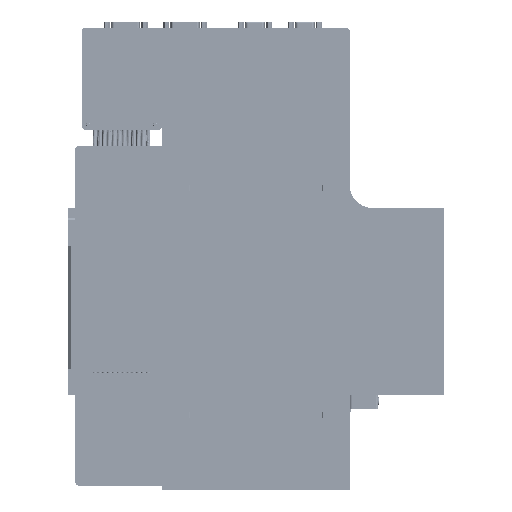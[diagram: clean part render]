
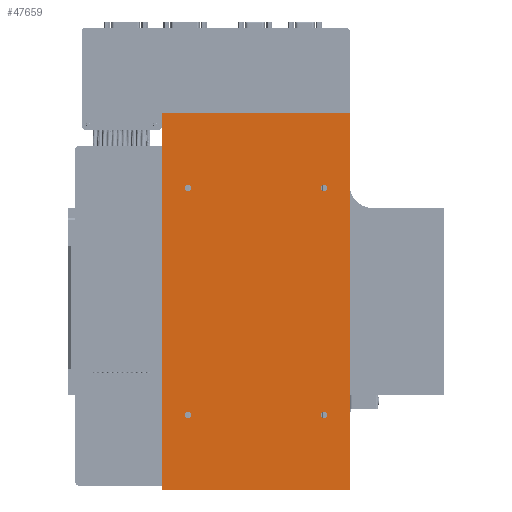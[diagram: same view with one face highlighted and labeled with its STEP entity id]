
A CAD part, front view. The second image highlights one B-rep face of the part: STEP entity #47659.
In plain terms, the highlighted planar face has unit normal (0, -1, 0).
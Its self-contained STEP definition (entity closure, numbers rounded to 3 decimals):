
#1025 = CIRCLE ( 'NONE', #63751, 2.75 ) ;
#1779 = VERTEX_POINT ( 'NONE', #173153 ) ;
#5857 = CIRCLE ( 'NONE', #192332, 2.75 ) ;
#9878 = DIRECTION ( 'NONE',  ( 0., 1., 0. ) ) ;
#11584 = AXIS2_PLACEMENT_3D ( 'NONE', #129992, #163047, #146519 ) ;
#12639 = LINE ( 'NONE', #169810, #193100 ) ;
#14299 = VERTEX_POINT ( 'NONE', #145413 ) ;
#14444 = VERTEX_POINT ( 'NONE', #192177 ) ;
#15966 = ORIENTED_EDGE ( 'NONE', *, *, #80800, .T. ) ;
#17079 = ORIENTED_EDGE ( 'NONE', *, *, #152436, .T. ) ;
#17329 = DIRECTION ( 'NONE',  ( 0., 1., 0. ) ) ;
#17682 = LINE ( 'NONE', #190624, #103219 ) ;
#18106 = CARTESIAN_POINT ( 'NONE',  ( 60., 0., -97.25 ) ) ;
#18997 = DIRECTION ( 'NONE',  ( 0., 1., 0. ) ) ;
#19190 = DIRECTION ( 'NONE',  ( 0., 0., 1. ) ) ;
#19232 = CARTESIAN_POINT ( 'NONE',  ( -82.5, 0., -166. ) ) ;
#19886 = DIRECTION ( 'NONE',  ( 0., 0., 1. ) ) ;
#21592 = CARTESIAN_POINT ( 'NONE',  ( -60., 0., 97.25 ) ) ;
#24335 = EDGE_CURVE ( 'NONE', #1779, #29871, #1025, .T. ) ;
#24800 = VERTEX_POINT ( 'NONE', #93032 ) ;
#26043 = VERTEX_POINT ( 'NONE', #175159 ) ;
#28091 = EDGE_CURVE ( 'NONE', #14299, #34196, #188562, .T. ) ;
#29440 = AXIS2_PLACEMENT_3D ( 'NONE', #41688, #9878, #191626 ) ;
#29871 = VERTEX_POINT ( 'NONE', #107736 ) ;
#30564 = PLANE ( 'NONE',  #31055 ) ;
#31055 = AXIS2_PLACEMENT_3D ( 'NONE', #139959, #49079, #126663 ) ;
#31627 = EDGE_LOOP ( 'NONE', ( #50785, #36221, #86809, #116930 ) ) ;
#31875 = VECTOR ( 'NONE', #47362, 1000. ) ;
#32067 = CARTESIAN_POINT ( 'NONE',  ( -82.5, 0., 166. ) ) ;
#33313 = EDGE_LOOP ( 'NONE', ( #113416, #15966 ) ) ;
#33574 = CARTESIAN_POINT ( 'NONE',  ( 60., 0., 100. ) ) ;
#34196 = VERTEX_POINT ( 'NONE', #88692 ) ;
#35943 = CIRCLE ( 'NONE', #158944, 2.75 ) ;
#36221 = ORIENTED_EDGE ( 'NONE', *, *, #54300, .F. ) ;
#38079 = CIRCLE ( 'NONE', #61970, 2.75 ) ;
#39955 = DIRECTION ( 'NONE',  ( 0., 0., 1. ) ) ;
#41688 = CARTESIAN_POINT ( 'NONE',  ( -60., 0., 100. ) ) ;
#42684 = CARTESIAN_POINT ( 'NONE',  ( 82.5, 0., -166. ) ) ;
#44079 = CARTESIAN_POINT ( 'NONE',  ( 60., 0., -100. ) ) ;
#44628 = ORIENTED_EDGE ( 'NONE', *, *, #188495, .T. ) ;
#45933 = EDGE_CURVE ( 'NONE', #24800, #165840, #138934, .T. ) ;
#47362 = DIRECTION ( 'NONE',  ( 1., 0., 0. ) ) ;
#47659 = ADVANCED_FACE ( 'NONE', ( #170801, #132981, #154256, #59368, #175567 ), #30564, .F. ) ;
#49079 = DIRECTION ( 'NONE',  ( 0., 1., 0. ) ) ;
#50785 = ORIENTED_EDGE ( 'NONE', *, *, #167797, .F. ) ;
#54300 = EDGE_CURVE ( 'NONE', #124736, #55705, #17682, .T. ) ;
#55360 = DIRECTION ( 'NONE',  ( -1., 0., 0. ) ) ;
#55705 = VERTEX_POINT ( 'NONE', #185632 ) ;
#59368 = FACE_BOUND ( 'NONE', #85007, .T. ) ;
#60716 = CIRCLE ( 'NONE', #186555, 2.75 ) ;
#61970 = AXIS2_PLACEMENT_3D ( 'NONE', #189890, #173326, #39955 ) ;
#62361 = CARTESIAN_POINT ( 'NONE',  ( 60., 0., -102.75 ) ) ;
#63751 = AXIS2_PLACEMENT_3D ( 'NONE', #33574, #18997, #125821 ) ;
#65052 = ORIENTED_EDGE ( 'NONE', *, *, #82597, .T. ) ;
#77848 = CARTESIAN_POINT ( 'NONE',  ( 60., 0., 100. ) ) ;
#80800 = EDGE_CURVE ( 'NONE', #29871, #1779, #60716, .T. ) ;
#81308 = CARTESIAN_POINT ( 'NONE',  ( 60., 0., -100. ) ) ;
#82597 = EDGE_CURVE ( 'NONE', #173871, #122380, #35943, .T. ) ;
#84741 = ORIENTED_EDGE ( 'NONE', *, *, #28091, .T. ) ;
#85007 = EDGE_LOOP ( 'NONE', ( #116224, #44628 ) ) ;
#86809 = ORIENTED_EDGE ( 'NONE', *, *, #172189, .F. ) ;
#88692 = CARTESIAN_POINT ( 'NONE',  ( -60., 0., -102.75 ) ) ;
#93032 = CARTESIAN_POINT ( 'NONE',  ( -60., 0., 102.75 ) ) ;
#100549 = EDGE_LOOP ( 'NONE', ( #65052, #120897 ) ) ;
#103219 = VECTOR ( 'NONE', #55360, 1000. ) ;
#104789 = CIRCLE ( 'NONE', #29440, 2.75 ) ;
#107736 = CARTESIAN_POINT ( 'NONE',  ( 60., 0., 97.25 ) ) ;
#110152 = CARTESIAN_POINT ( 'NONE',  ( -60., 0., -100. ) ) ;
#111496 = DIRECTION ( 'NONE',  ( 0., 0., 1. ) ) ;
#113416 = ORIENTED_EDGE ( 'NONE', *, *, #24335, .T. ) ;
#116224 = ORIENTED_EDGE ( 'NONE', *, *, #45933, .T. ) ;
#116930 = ORIENTED_EDGE ( 'NONE', *, *, #171816, .F. ) ;
#117682 = AXIS2_PLACEMENT_3D ( 'NONE', #110152, #139958, #19190 ) ;
#120897 = ORIENTED_EDGE ( 'NONE', *, *, #150986, .T. ) ;
#121662 = DIRECTION ( 'NONE',  ( 0., 1., 0. ) ) ;
#122380 = VERTEX_POINT ( 'NONE', #62361 ) ;
#124736 = VERTEX_POINT ( 'NONE', #42684 ) ;
#124841 = LINE ( 'NONE', #19232, #195965 ) ;
#125821 = DIRECTION ( 'NONE',  ( 0., 0., 1. ) ) ;
#126663 = DIRECTION ( 'NONE',  ( 0., 0., 1. ) ) ;
#129992 = CARTESIAN_POINT ( 'NONE',  ( -60., 0., 100. ) ) ;
#132981 = FACE_BOUND ( 'NONE', #100549, .T. ) ;
#138934 = CIRCLE ( 'NONE', #11584, 2.75 ) ;
#139958 = DIRECTION ( 'NONE',  ( 0., 1., 0. ) ) ;
#139959 = CARTESIAN_POINT ( 'NONE',  ( 0., 0., 0. ) ) ;
#140866 = DIRECTION ( 'NONE',  ( 0., 1., 0. ) ) ;
#142180 = DIRECTION ( 'NONE',  ( 0., 0., 1. ) ) ;
#145413 = CARTESIAN_POINT ( 'NONE',  ( -60., 0., -97.25 ) ) ;
#146519 = DIRECTION ( 'NONE',  ( 0., 0., 1. ) ) ;
#150986 = EDGE_CURVE ( 'NONE', #122380, #173871, #5857, .T. ) ;
#152436 = EDGE_CURVE ( 'NONE', #34196, #14299, #38079, .T. ) ;
#154256 = FACE_BOUND ( 'NONE', #33313, .T. ) ;
#158944 = AXIS2_PLACEMENT_3D ( 'NONE', #44079, #121662, #195942 ) ;
#163047 = DIRECTION ( 'NONE',  ( 0., 1., 0. ) ) ;
#165840 = VERTEX_POINT ( 'NONE', #21592 ) ;
#167797 = EDGE_CURVE ( 'NONE', #55705, #26043, #124841, .T. ) ;
#169810 = CARTESIAN_POINT ( 'NONE',  ( 82.5, 0., -166. ) ) ;
#170801 = FACE_BOUND ( 'NONE', #171048, .T. ) ;
#171048 = EDGE_LOOP ( 'NONE', ( #84741, #17079 ) ) ;
#171798 = DIRECTION ( 'NONE',  ( 0., 0., -1. ) ) ;
#171816 = EDGE_CURVE ( 'NONE', #26043, #14444, #183753, .T. ) ;
#172189 = EDGE_CURVE ( 'NONE', #14444, #124736, #12639, .T. ) ;
#173153 = CARTESIAN_POINT ( 'NONE',  ( 60., 0., 102.75 ) ) ;
#173326 = DIRECTION ( 'NONE',  ( 0., 1., 0. ) ) ;
#173871 = VERTEX_POINT ( 'NONE', #18106 ) ;
#175159 = CARTESIAN_POINT ( 'NONE',  ( -82.5, 0., 166. ) ) ;
#175567 = FACE_OUTER_BOUND ( 'NONE', #31627, .T. ) ;
#183753 = LINE ( 'NONE', #32067, #31875 ) ;
#185632 = CARTESIAN_POINT ( 'NONE',  ( -82.5, 0., -166. ) ) ;
#186555 = AXIS2_PLACEMENT_3D ( 'NONE', #77848, #17329, #19886 ) ;
#188495 = EDGE_CURVE ( 'NONE', #165840, #24800, #104789, .T. ) ;
#188562 = CIRCLE ( 'NONE', #117682, 2.75 ) ;
#189890 = CARTESIAN_POINT ( 'NONE',  ( -60., 0., -100. ) ) ;
#190624 = CARTESIAN_POINT ( 'NONE',  ( -82.5, 0., -166. ) ) ;
#191626 = DIRECTION ( 'NONE',  ( 0., 0., 1. ) ) ;
#192177 = CARTESIAN_POINT ( 'NONE',  ( 82.5, 0., 166. ) ) ;
#192332 = AXIS2_PLACEMENT_3D ( 'NONE', #81308, #140866, #142180 ) ;
#193100 = VECTOR ( 'NONE', #171798, 1000. ) ;
#195942 = DIRECTION ( 'NONE',  ( 0., 0., 1. ) ) ;
#195965 = VECTOR ( 'NONE', #111496, 1000. ) ;
